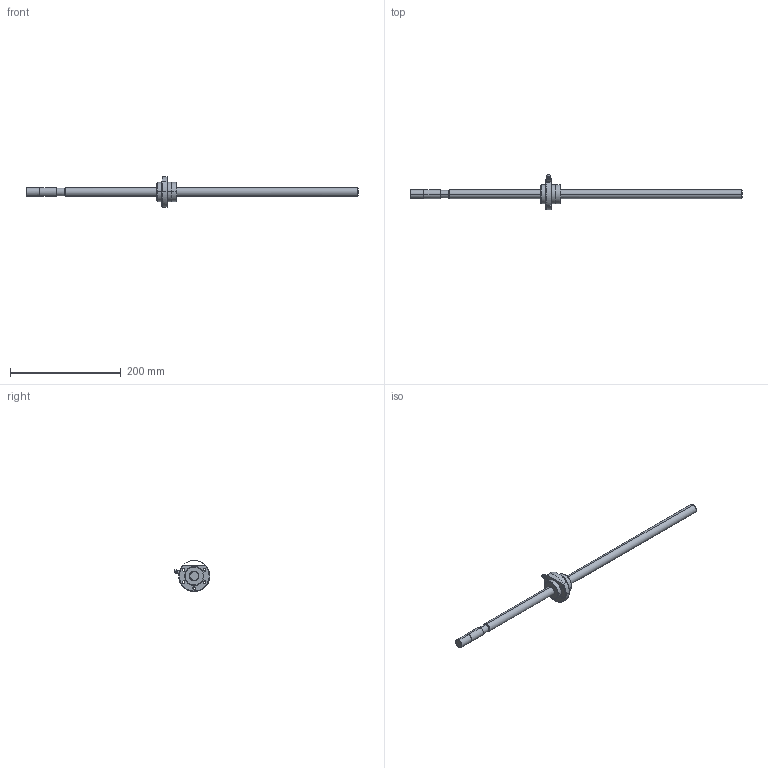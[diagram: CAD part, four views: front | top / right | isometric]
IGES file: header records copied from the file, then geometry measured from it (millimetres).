
Global section: file name: No Iges File Name specified; native system: AutoDesk Inventor R10; preprocessor: AutoDesk Inventor Iges Exporter R10; author: No Author specified; organization: No Organization specified; date: 20101224.134131; units: millimetre
Bounding box: 600 x 63.9 x 56 mm (x, y, z)
Surface area: 42516 mm2 (no closed solid volume)
Topology: 0 solids, 0 shells, 77 faces, 503 edges, 499 vertices
Faces by surface type: bspline 77
